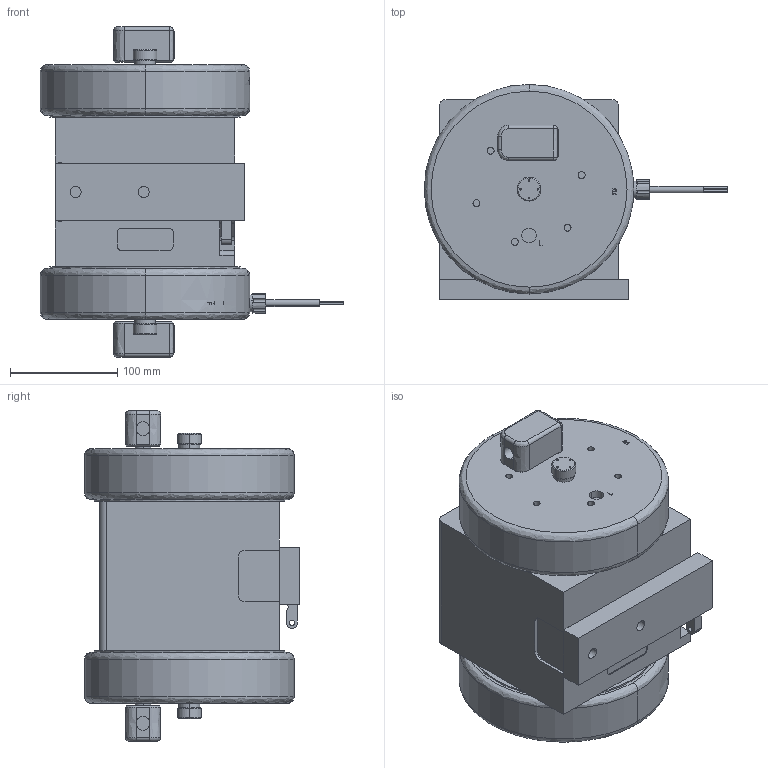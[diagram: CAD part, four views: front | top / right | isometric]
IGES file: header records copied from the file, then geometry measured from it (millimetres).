
Start section: SolidWorks IGES file using analytic representation for surfaces
Global section: file name: \\server\Users\Karen.Bodily\My Documents\PFU Defeatured\PFU060_solid model.IGS; native system: SolidWorks 2012; preprocessor: SolidWorks 2012; author: karen.bodily; date: 130725.094243; units: inch
Bounding box: 283.21 x 200.58 x 308.11 mm (x, y, z)
Volume: 7040302.5 mm3; surface area: 278172.4 mm2
Topology: 1 solids, 1 shells, 1161 faces, 2949 edges, 1936 vertices
Faces by surface type: plane 790, revolution 251, bspline 120
